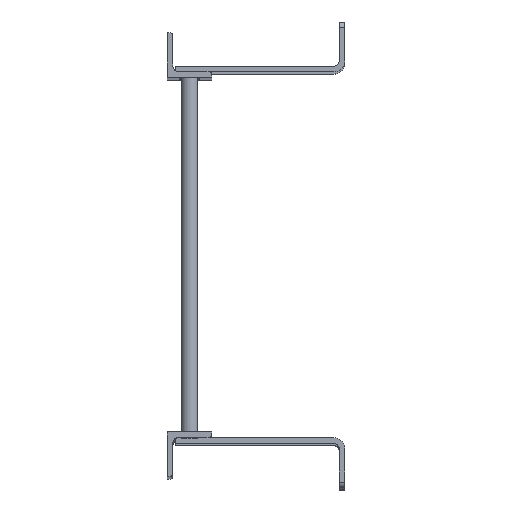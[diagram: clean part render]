
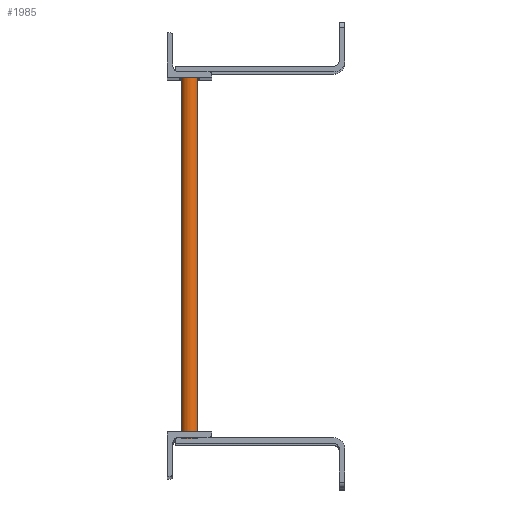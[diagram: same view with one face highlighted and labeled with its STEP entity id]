
A CAD part, top view. The second image highlights one B-rep face of the part: STEP entity #1985.
In plain terms, the highlighted cylindrical face has radius 9.525 mm (diameter 19.05 mm), a full revolution.
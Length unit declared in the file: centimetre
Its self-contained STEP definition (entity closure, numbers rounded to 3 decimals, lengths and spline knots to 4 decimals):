
#397=FACE_BOUND('',#574,.T.);
#458=FACE_OUTER_BOUND('',#573,.T.);
#573=EDGE_LOOP('',(#1297));
#574=EDGE_LOOP('',(#1298));
#749=CIRCLE('',#2111,0.9525);
#750=CIRCLE('',#2112,0.9525);
#853=VERTEX_POINT('',#2925);
#854=VERTEX_POINT('',#2927);
#1039=EDGE_CURVE('',#853,#853,#749,.T.);
#1040=EDGE_CURVE('',#854,#854,#750,.T.);
#1297=ORIENTED_EDGE('',*,*,#1039,.T.);
#1298=ORIENTED_EDGE('',*,*,#1040,.F.);
#1813=CYLINDRICAL_SURFACE('',#2110,0.9525);
#1985=ADVANCED_FACE('',(#458,#397),#1813,.T.);
#2110=AXIS2_PLACEMENT_3D('',#2924,#2331,#2332);
#2111=AXIS2_PLACEMENT_3D('',#2926,#2333,#2334);
#2112=AXIS2_PLACEMENT_3D('',#2928,#2335,#2336);
#2331=DIRECTION('center_axis',(0.,1.,0.));
#2332=DIRECTION('ref_axis',(1.,0.,0.));
#2333=DIRECTION('center_axis',(0.,-1.,0.));
#2334=DIRECTION('ref_axis',(1.,0.,0.));
#2335=DIRECTION('center_axis',(0.,-1.,0.));
#2336=DIRECTION('ref_axis',(1.,0.,0.));
#2924=CARTESIAN_POINT('Origin',(2.54,-41.4338,186.69));
#2925=CARTESIAN_POINT('',(1.5875,0.4762,186.69));
#2926=CARTESIAN_POINT('Origin',(2.54,0.4762,186.69));
#2927=CARTESIAN_POINT('',(1.5875,-41.4338,186.69));
#2928=CARTESIAN_POINT('Origin',(2.54,-41.4338,186.69));
